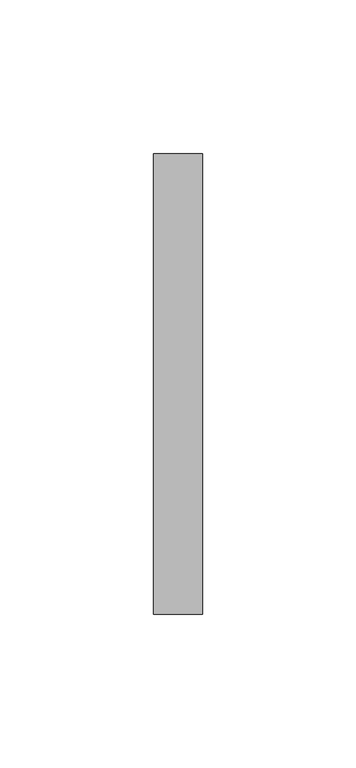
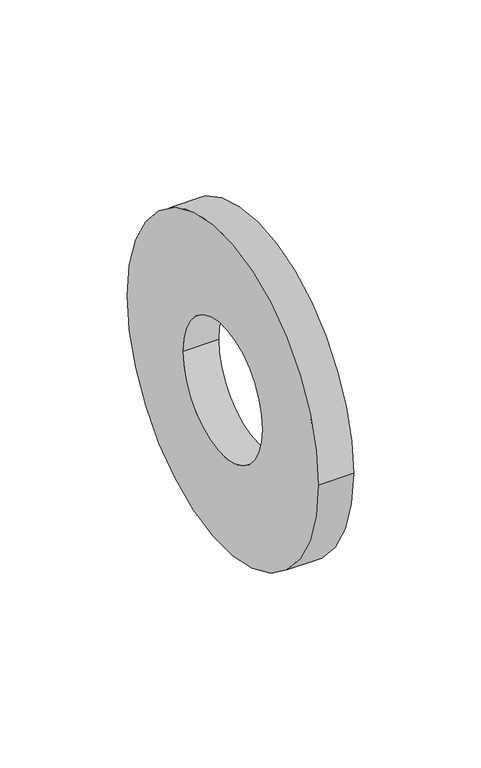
"""IFC4 building model written with IfcOpenShell, lengths in millimetres: pipe fitting geometry, NIRON accesorio brida : Estándar."""

from ifc_helpers import new_model, si_unit, point, frame, origin, origin_2d, place, context, project, spatial, circle_curve, trimmed, segment, composite_curve, outline, extrude, source, transform, mapped, element, save


def pipe_fitting_3e6e8bf1(model_context):
    return source(origin(), model_context, "Body", "SweptSolid", [
        extrude(outline(composite_curve([segment(trimmed(circle_curve(origin_2d(), 75.0), [point((75.0, 0.0))], [point((-75.0, 0.0))], False, "CARTESIAN"), True, "CONTINUOUS"), segment(trimmed(circle_curve(origin_2d(), 75.0), [point((-75.0, 0.0))], [point((75.0, 0.0))], False, "CARTESIAN"), True, "CONTINUOUS")], self_intersect=False), holes=[composite_curve([segment(trimmed(circle_curve(origin_2d(), 31.0), [point((31.0, 0.0))], [point((-31.0, 0.0))], True, "CARTESIAN"), True, "CONTINUOUS"), segment(trimmed(circle_curve(origin_2d(), 31.0), [point((-31.0, 0.0))], [point((31.0, 0.0))], True, "CARTESIAN"), True, "CONTINUOUS")], self_intersect=False)]), frame((2.4830127, 0.0, 0.0), z_axis=(1.0, 0.0, 0.0), x_axis=(0.0, 1.0, 0.0)), (0.0, 0.0, 1.0), 16.0),
    ])


if __name__ == "__main__":
    model = new_model("IFC4")
    model_context = context("Model", 3, world=origin())
    ifc_project = project(units=[si_unit("LENGTHUNIT", "METRE", prefix="MILLI")], contexts=[model_context])
    site = spatial("IfcSite", under=ifc_project)
    building = spatial("IfcBuilding", under=site)
    placement = place(None, origin())
    pipe_fitting_shape = pipe_fitting_3e6e8bf1(model_context)
    element("IfcPipeFitting", 1, ObjectType="NIRON accesorio brida : Estándar", at=placement, inside=building, context=model_context, shape_type="MappedRepresentation", body=[
        mapped(pipe_fitting_shape, transform((0.0, 0.0, 0.0), x_axis=(1.0, 0.0, 0.0), y_axis=(0.0, 1.0, 0.0), z_axis=(0.0, 0.0, 1.0))),
    ])
    save(model, "model.ifc")
